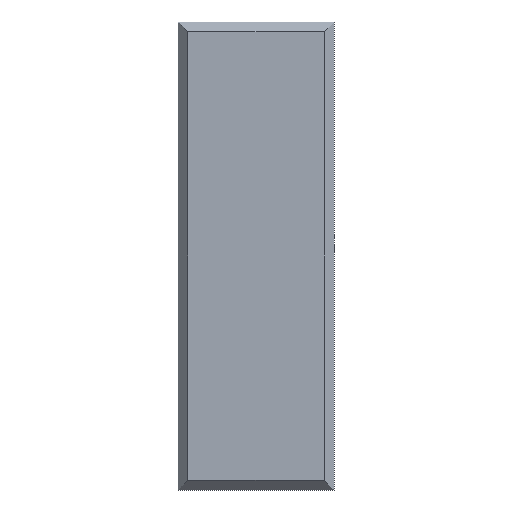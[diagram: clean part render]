
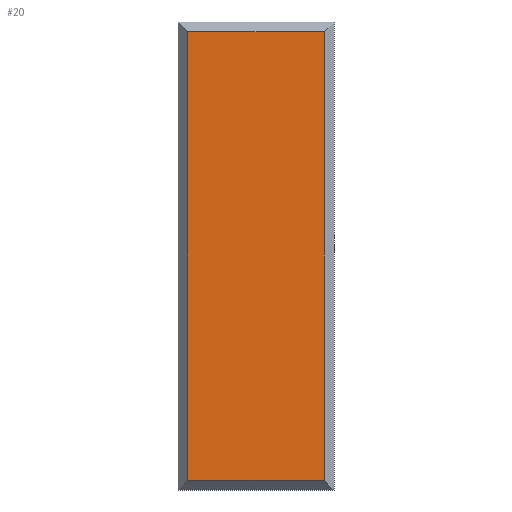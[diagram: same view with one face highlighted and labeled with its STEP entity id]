
A CAD part, front view. The second image highlights one B-rep face of the part: STEP entity #20.
In plain terms, the highlighted planar face has unit normal (0, -1, 0).
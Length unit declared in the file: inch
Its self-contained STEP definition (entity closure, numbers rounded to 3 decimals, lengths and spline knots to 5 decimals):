
#20=ADVANCED_FACE('',(#30),#142,.T.);
#30=FACE_OUTER_BOUND('',#40,.T.);
#40=EDGE_LOOP('',(#68,#69,#70,#71));
#68=ORIENTED_EDGE('',*,*,#84,.F.);
#69=ORIENTED_EDGE('',*,*,#95,.F.);
#70=ORIENTED_EDGE('',*,*,#91,.F.);
#71=ORIENTED_EDGE('',*,*,#88,.F.);
#84=EDGE_CURVE('',#124,#125,#104,.T.);
#88=EDGE_CURVE('',#125,#128,#108,.T.);
#91=EDGE_CURVE('',#128,#130,#111,.T.);
#95=EDGE_CURVE('',#130,#124,#115,.T.);
#104=B_SPLINE_CURVE_WITH_KNOTS('',1,(#285,#286),.UNSPECIFIED.,.F.,.F.,(2,
2),(0.,11.5),.UNSPECIFIED.);
#108=B_SPLINE_CURVE_WITH_KNOTS('',1,(#293,#294),.UNSPECIFIED.,.F.,.F.,(2,
2),(0.,3.5),.UNSPECIFIED.);
#111=B_SPLINE_CURVE_WITH_KNOTS('',1,(#299,#300),.UNSPECIFIED.,.F.,.F.,(2,
2),(0.,11.5),.UNSPECIFIED.);
#115=B_SPLINE_CURVE_WITH_KNOTS('',1,(#307,#308),.UNSPECIFIED.,.F.,.F.,(2,
2),(0.,3.5),.UNSPECIFIED.);
#124=VERTEX_POINT('',#273);
#125=VERTEX_POINT('',#274);
#128=VERTEX_POINT('',#277);
#130=VERTEX_POINT('',#279);
#142=PLANE('',#243);
#243=AXIS2_PLACEMENT_3D('',#269,#256,$);
#256=DIRECTION('',(0.,-1.,0.));
#269=CARTESIAN_POINT('',(-2.10472,-0.5,6.90472));
#273=CARTESIAN_POINT('',(-1.75,-0.5,-5.75));
#274=CARTESIAN_POINT('',(-1.75,-0.5,5.75));
#277=CARTESIAN_POINT('',(1.75,-0.5,5.75));
#279=CARTESIAN_POINT('',(1.75,-0.5,-5.75));
#285=CARTESIAN_POINT('',(-1.75,-0.5,-5.75));
#286=CARTESIAN_POINT('',(-1.75,-0.5,5.75));
#293=CARTESIAN_POINT('',(-1.75,-0.5,5.75));
#294=CARTESIAN_POINT('',(1.75,-0.5,5.75));
#299=CARTESIAN_POINT('',(1.75,-0.5,5.75));
#300=CARTESIAN_POINT('',(1.75,-0.5,-5.75));
#307=CARTESIAN_POINT('',(1.75,-0.5,-5.75));
#308=CARTESIAN_POINT('',(-1.75,-0.5,-5.75));
